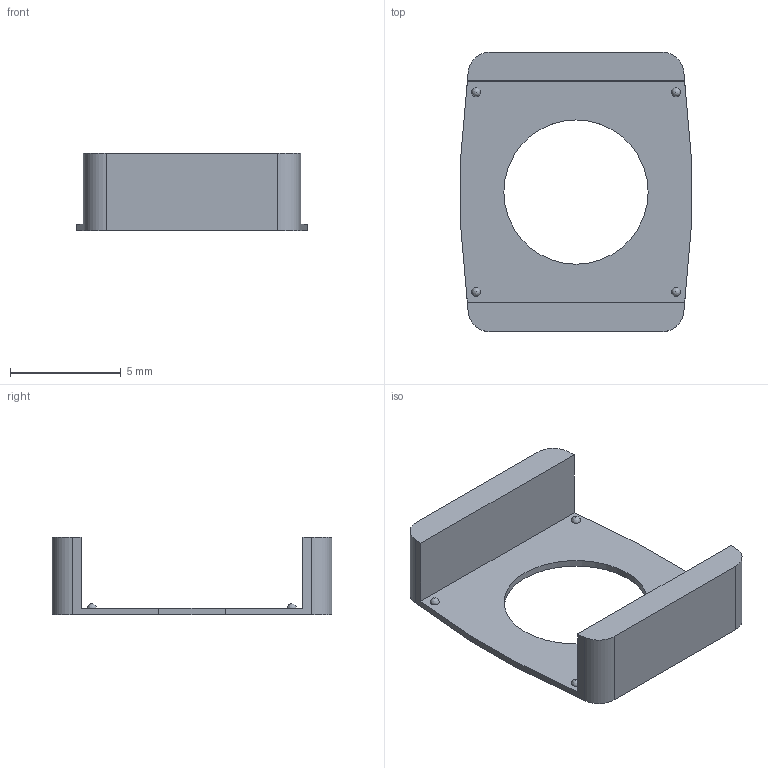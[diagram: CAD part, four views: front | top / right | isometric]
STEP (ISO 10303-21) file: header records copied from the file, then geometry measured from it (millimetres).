
FILE_DESCRIPTION( ( 'STEP AP203' ), '1' );
FILE_NAME( 'C:/NH-06.stp', '2013-10-15T01:29:06', ( ' ' ), ( ' ' ), 'XStep 1.0', ' ', ' ' );
FILE_SCHEMA( ( 'CONFIG_CONTROL_DESIGN' ) );
Length unit declared in the file: metre
Products named in the file (1): 1
Bounding box: 10.4 x 12.6 x 3.5 mm (x, y, z)
Volume: 106.2 mm3; surface area: 341.9 mm2
Topology: 1 solids, 1 shells, 23 faces, 63 edges, 42 vertices
Faces by surface type: bspline 23
Entity records: 820 total; most frequent: CARTESIAN_POINT 298, ORIENTED_EDGE 108, DIRECTION 63, EDGE_CURVE 54, VERTEX_POINT 42, LINE 33, VECTOR 33, EDGE_LOOP 30
